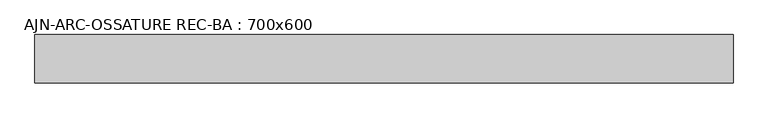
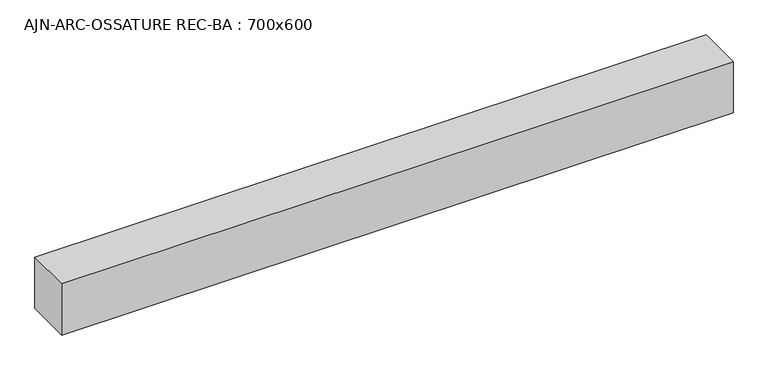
"""IFC4 building model written with IfcOpenShell, lengths in millimetres: beam geometry, AJN-ARC-OSSATURE REC-BA : 700x600."""

from ifc_helpers import new_model, si_unit, frame, origin, place, context, project, spatial, polyline, outline, extrude, source, transform, mapped, element, save


def ajn_arc_ossature_rec_ba_700x600_004af76b(model_context):
    return source(origin(), model_context, "Body", "SweptSolid", [
        extrude(outline(polyline([(4500.0, 300.0), (4500.0, -300.0), (-4187.3, -300.0), (-4187.3, 300.0), (4500.0, 300.0)])), frame((0.0, 0.0, -350.0), z_axis=(0.0, 0.0, 1.0), x_axis=(1.0, 0.0, 0.0)), (0.0, 0.0, 1.0), 700.0),
    ])


if __name__ == "__main__":
    model = new_model("IFC4")
    model_context = context("Model", 3, world=origin())
    ifc_project = project(units=[si_unit("LENGTHUNIT", "METRE", prefix="MILLI")], contexts=[model_context])
    site = spatial("IfcSite", under=ifc_project)
    building = spatial("IfcBuilding", under=site)
    placement = place(None, origin())
    ajn_arc_ossature_rec_ba_700x600_shape = ajn_arc_ossature_rec_ba_700x600_004af76b(model_context)
    element("IfcBeam", 1, ObjectType="AJN-ARC-OSSATURE REC-BA : 700x600", at=placement, inside=building, context=model_context, shape_type="MappedRepresentation", body=[
        mapped(ajn_arc_ossature_rec_ba_700x600_shape, transform((0.0, 0.0, 0.0), x_axis=(1.0, 0.0, 0.0), y_axis=(0.0, 1.0, 0.0), z_axis=(0.0, 0.0, 1.0))),
    ])
    save(model, "model.ifc")
